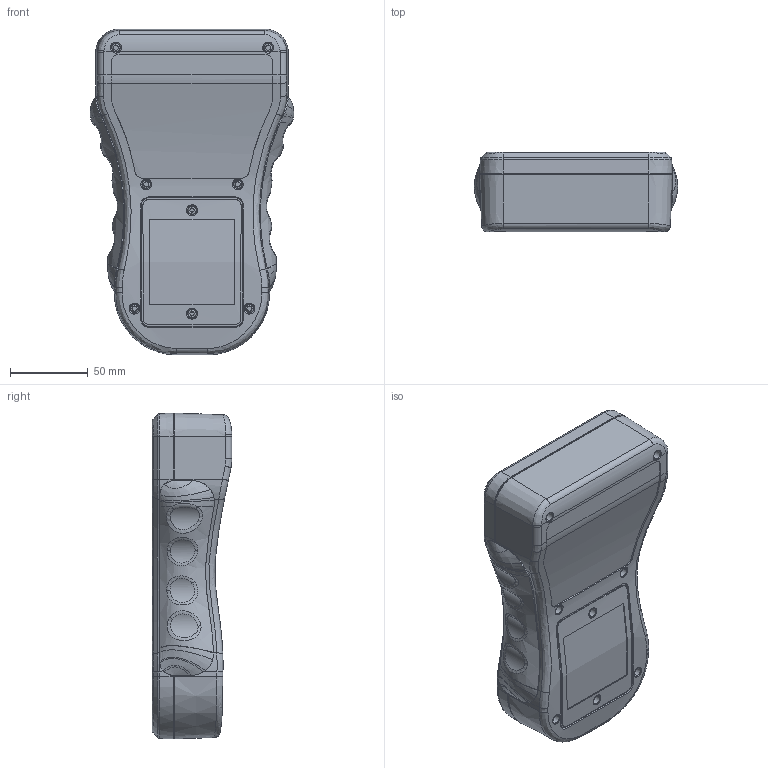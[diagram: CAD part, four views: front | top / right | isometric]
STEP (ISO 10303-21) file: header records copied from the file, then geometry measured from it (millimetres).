
FILE_DESCRIPTION (( 'STEP AP203' ), '1' );
FILE_NAME ('t-case-m_asm.STEP', '2009-10-13T20:49:13', ( 'Chris' ), ( '' ), 'SwSTEP 2.0', 'SolidWorks 2007', '' );
FILE_SCHEMA (( 'CONFIG_CONTROL_DESIGN' ));
Products named in the file (23): 2-9V_1; 4-AAA; 4XAAA-BOX; BATTERY_2A; SEAL-DEVICE-A; SEAL-DEVICE-B; T-CASE-M_BATTER-DOOR; t-case-m_asm; 1-9V; 1-9V_BOX; 2-9V; 2-9V-BOX; 2-9V_2; 2-9V_3; 2AA-BOX; BOTTOM-PCB; MAIN-PCB; MDL-S-16465; RUBBER; T-CASE-M_BOTTOM; T-CASE-M_TOP; WASHER_8; WASHER_9
Assembly tree (22 placements, depth 3):
  t-case-m_asm
    WASHER_8
    4-AAA
      4XAAA-BOX
      BATTERY_2A
    MAIN-PCB
    SEAL-DEVICE-B
    1-9V
      1-9V_BOX
      2-9V
    BOTTOM-PCB
    T-CASE-M_BATTER-DOOR
    T-CASE-M_TOP
    2-9V_1
      2-9V_2
      2-9V_3
      2-9V-BOX
    RUBBER
    2AA-BOX
    WASHER_9
    T-CASE-M_BOTTOM
    SEAL-DEVICE-A
    MDL-S-16465
Bounding box: 131 x 51.3 x 209.8 mm (x, y, z)
Volume: 449782.5 mm3; surface area: 352919.1 mm2
Topology: 21 solids, 23 shells, 3032 faces, 8335 edges, 5396 vertices
Faces by surface type: plane 1548, cylinder 838, bspline 516, cone 130
Entity records: 128733 total; most frequent: CARTESIAN_POINT 54377, ORIENTED_EDGE 16630, DIRECTION 12623, EDGE_CURVE 8321, VERTEX_POINT 5396, VECTOR 4803, LINE 4803, AXIS2_PLACEMENT_3D 3910
